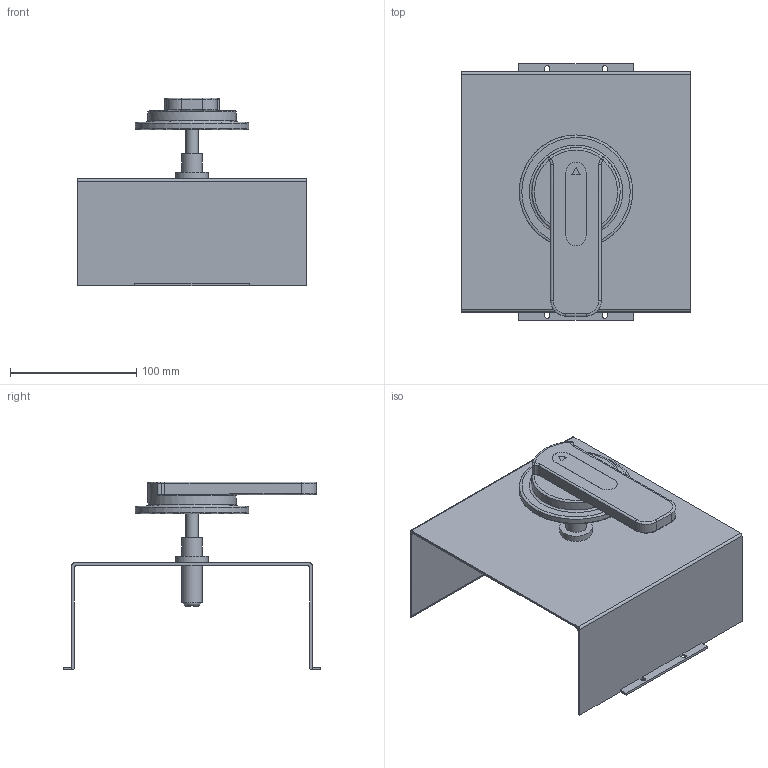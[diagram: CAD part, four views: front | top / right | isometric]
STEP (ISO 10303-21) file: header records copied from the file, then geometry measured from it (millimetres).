
FILE_DESCRIPTION(/* description */ (''),/* implementation_level */ '2;1');
FILE_NAME(/* name */ 'D:\2 ДОГОВОР ЧИНТ\Выслать\CHINT 10.03.2019\NM1\Privod NM1-630.stp',/* time_stamp */ '2019-03-11T17:57:35+03:00',/* author */ ('RSagdiev'),/* organization */ (''),/* preprocessor_version */ 'ST-DEVELOPER v16.5',/* originating_system */ 'Autodesk Inventor 2017',/* authorisation */ '');
FILE_SCHEMA (('AUTOMOTIVE_DESIGN { 1 0 10303 214 3 1 1 }'));
Length unit declared in the file: millimetre
Products named in the file (1): Privod NM1-630
Bounding box: 182 x 203.5 x 149 mm (x, y, z)
Volume: 266785.6 mm3; surface area: 166362 mm2
Topology: 6 solids, 6 shells, 116 faces, 293 edges, 184 vertices
Faces by surface type: plane 64, cylinder 28, bspline 23, torus 1
Full cylindrical faces by diameter (mm): 10 x4, 16 x2, 26 x1, 28 x1, 70 x1, 90 x1
Entity records: 5603 total; most frequent: CARTESIAN_POINT 2871, ORIENTED_EDGE 556, DIRECTION 515, EDGE_CURVE 278, VERTEX_POINT 182, AXIS2_PLACEMENT_3D 180, LINE 155, VECTOR 155
